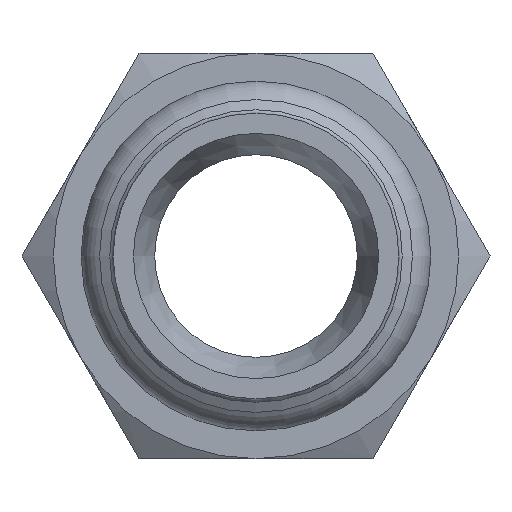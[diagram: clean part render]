
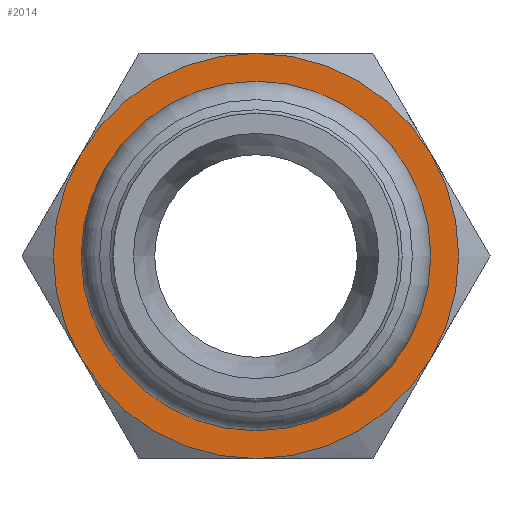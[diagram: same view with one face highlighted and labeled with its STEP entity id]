
A CAD part, left-side view. The second image highlights one B-rep face of the part: STEP entity #2014.
In plain terms, the highlighted planar face has unit normal (-1, 0, 0) as drawn and (0, 0, -1) by its records, which use the part's own axes.
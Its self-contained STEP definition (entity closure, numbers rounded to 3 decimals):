
#1204=CARTESIAN_POINT('',(-12.99,7.5,0.));
#1205=VERTEX_POINT('',#1204);
#1219=CARTESIAN_POINT('',(0.,15.,0.));
#1220=VERTEX_POINT('',#1219);
#1234=CARTESIAN_POINT('',(0.0,0.0,0.0));
#1235=DIRECTION('',(0.0,0.0,-1.0));
#1236=DIRECTION('',(1.0,0.0,0.0));
#1237=AXIS2_PLACEMENT_3D('',#1234,#1235,#1236);
#1238=CIRCLE('',#1237,15.);
#1239=EDGE_CURVE('',#1205,#1220,#1238,.T.);
#1251=CARTESIAN_POINT('',(-12.99,-7.5,0.));
#1252=VERTEX_POINT('',#1251);
#1279=CARTESIAN_POINT('',(0.0,0.0,0.0));
#1280=DIRECTION('',(0.0,0.0,-1.0));
#1281=DIRECTION('',(1.0,0.0,0.0));
#1282=AXIS2_PLACEMENT_3D('',#1279,#1280,#1281);
#1283=CIRCLE('',#1282,15.);
#1284=EDGE_CURVE('',#1252,#1205,#1283,.T.);
#1296=CARTESIAN_POINT('',(0.,-15.,0.));
#1297=VERTEX_POINT('',#1296);
#1324=CARTESIAN_POINT('',(0.0,0.0,0.0));
#1325=DIRECTION('',(0.0,0.0,-1.0));
#1326=DIRECTION('',(1.0,0.0,0.0));
#1327=AXIS2_PLACEMENT_3D('',#1324,#1325,#1326);
#1328=CIRCLE('',#1327,15.);
#1329=EDGE_CURVE('',#1297,#1252,#1328,.T.);
#1354=CARTESIAN_POINT('',(12.99,-7.5,0.));
#1355=VERTEX_POINT('',#1354);
#1356=CARTESIAN_POINT('',(0.0,0.0,0.0));
#1357=DIRECTION('',(0.0,0.0,-1.0));
#1358=DIRECTION('',(1.0,0.0,0.0));
#1359=AXIS2_PLACEMENT_3D('',#1356,#1357,#1358);
#1360=CIRCLE('',#1359,15.);
#1361=EDGE_CURVE('',#1355,#1297,#1360,.T.);
#1399=CARTESIAN_POINT('',(12.99,7.5,0.));
#1400=VERTEX_POINT('',#1399);
#1401=CARTESIAN_POINT('',(0.0,0.0,0.0));
#1402=DIRECTION('',(0.0,0.0,-1.0));
#1403=DIRECTION('',(1.0,0.0,0.0));
#1404=AXIS2_PLACEMENT_3D('',#1401,#1402,#1403);
#1405=CIRCLE('',#1404,15.);
#1406=EDGE_CURVE('',#1400,#1355,#1405,.T.);
#1444=CARTESIAN_POINT('',(0.0,0.0,0.0));
#1445=DIRECTION('',(0.0,0.0,-1.0));
#1446=DIRECTION('',(1.0,0.0,0.0));
#1447=AXIS2_PLACEMENT_3D('',#1444,#1445,#1446);
#1448=CIRCLE('',#1447,15.);
#1449=EDGE_CURVE('',#1220,#1400,#1448,.T.);
#1922=CARTESIAN_POINT('',(-10.75,0.0,0.0));
#1923=VERTEX_POINT('',#1922);
#1924=CARTESIAN_POINT('',(0.0,0.0,0.0));
#1925=DIRECTION('',(0.0,0.0,1.0));
#1926=DIRECTION('',(-1.0,0.0,0.0));
#1927=AXIS2_PLACEMENT_3D('',#1924,#1925,#1926);
#1928=CIRCLE('',#1927,10.75);
#1929=EDGE_CURVE('',#1923,#1923,#1928,.T.);
#1998=CARTESIAN_POINT('',(0.,0.,0.0));
#1999=DIRECTION('',(0.0,0.0,1.0));
#2000=DIRECTION('',(1.0,0.0,0.0));
#2001=AXIS2_PLACEMENT_3D('',#1998,#1999,#2000);
#2002=PLANE('',#2001);
#2003=ORIENTED_EDGE('',*,*,#1449,.T.);
#2004=ORIENTED_EDGE('',*,*,#1406,.T.);
#2005=ORIENTED_EDGE('',*,*,#1361,.T.);
#2006=ORIENTED_EDGE('',*,*,#1329,.T.);
#2007=ORIENTED_EDGE('',*,*,#1284,.T.);
#2008=ORIENTED_EDGE('',*,*,#1239,.T.);
#2009=EDGE_LOOP('',(#2003,#2004,#2005,#2006,#2007,#2008));
#2010=FACE_OUTER_BOUND('',#2009,.T.);
#2011=ORIENTED_EDGE('',*,*,#1929,.T.);
#2012=EDGE_LOOP('',(#2011));
#2013=FACE_BOUND('',#2012,.T.);
#2014=ADVANCED_FACE('',(#2010,#2013),#2002,.F.);
